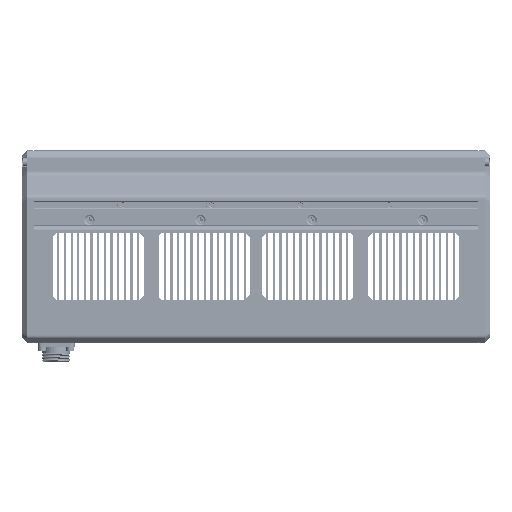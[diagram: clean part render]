
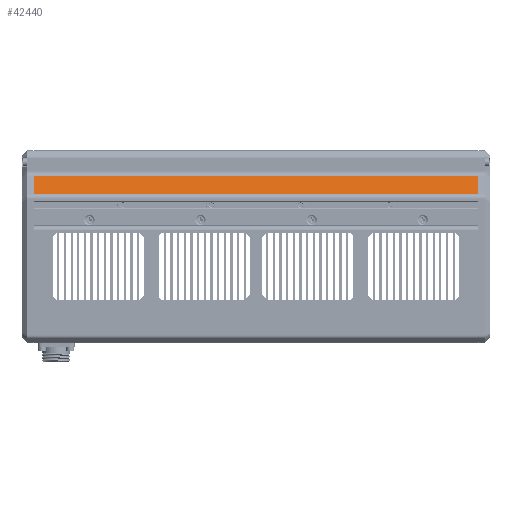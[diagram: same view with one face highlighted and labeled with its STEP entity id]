
A CAD part, top view. The second image highlights one B-rep face of the part: STEP entity #42440.
In plain terms, the highlighted planar face has unit normal (0, 0.819, 0.574).
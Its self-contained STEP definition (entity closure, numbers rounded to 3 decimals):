
#39969=DIRECTION('',(-1.,0.,0.));
#39970=VECTOR('',#39969,300.);
#39971=CARTESIAN_POINT('',(150.,12.344,33.794));
#39972=LINE('',#39971,#39970);
#39976=DIRECTION('',(0.,0.574,-0.819));
#39977=VECTOR('',#39976,21.838);
#39978=CARTESIAN_POINT('',(-150.,12.344,33.794));
#39979=LINE('',#39978,#39977);
#39983=DIRECTION('',(1.,0.,0.));
#39984=VECTOR('',#39983,300.);
#39985=CARTESIAN_POINT('',(-150.,24.87,15.906));
#39986=LINE('',#39985,#39984);
#39990=DIRECTION('',(0.,-0.574,0.819));
#39991=VECTOR('',#39990,21.838);
#39992=CARTESIAN_POINT('',(150.,24.87,15.906));
#39993=LINE('',#39992,#39991);
#40262=CARTESIAN_POINT('',(-150.,12.344,33.794));
#40264=VERTEX_POINT('',#40262);
#40265=CARTESIAN_POINT('',(150.,12.344,33.794));
#40266=VERTEX_POINT('',#40265);
#40403=CARTESIAN_POINT('',(-150.,24.87,15.906));
#40404=CARTESIAN_POINT('',(150.,24.87,15.906));
#40405=VERTEX_POINT('',#40403);
#40406=VERTEX_POINT('',#40404);
#42428=CARTESIAN_POINT('',(-150.,26.414,13.7));
#42429=DIRECTION('',(0.,0.819,0.574));
#42430=DIRECTION('',(0.,-0.574,0.819));
#42431=AXIS2_PLACEMENT_3D('',#42428,#42429,#42430);
#42432=PLANE('',#42431);
#42434=ORIENTED_EDGE('',*,*,#42433,.T.);
#42435=ORIENTED_EDGE('',*,*,#40518,.T.);
#42436=ORIENTED_EDGE('',*,*,#42413,.T.);
#42437=ORIENTED_EDGE('',*,*,#40604,.T.);
#42438=EDGE_LOOP('',(#42434,#42435,#42436,#42437));
#42439=FACE_OUTER_BOUND('',#42438,.F.);
#40518=EDGE_CURVE('',#40264,#40405,#39979,.T.);
#40604=EDGE_CURVE('',#40406,#40266,#39993,.T.);
#42413=EDGE_CURVE('',#40405,#40406,#39986,.T.);
#42433=EDGE_CURVE('',#40266,#40264,#39972,.T.);
#42440=ADVANCED_FACE('',(#42439),#42432,.T.);
